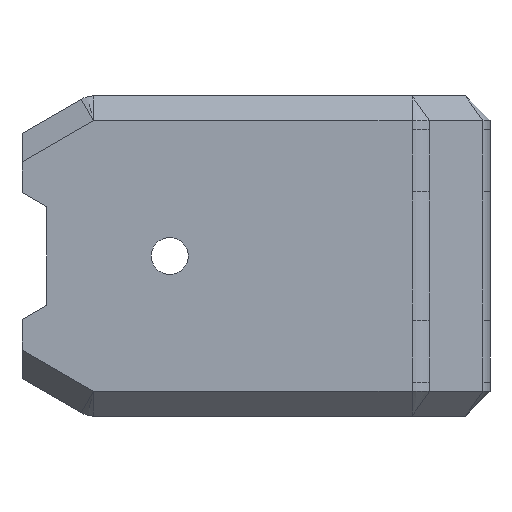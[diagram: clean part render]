
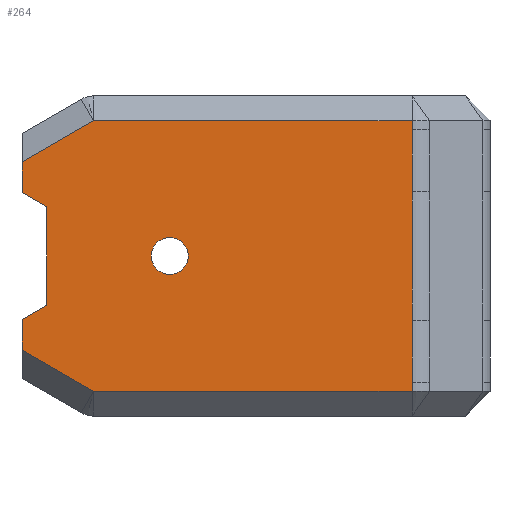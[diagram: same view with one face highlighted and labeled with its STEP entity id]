
A CAD part, front view. The second image highlights one B-rep face of the part: STEP entity #264.
In plain terms, the highlighted planar face has unit normal (0, -1, 0).
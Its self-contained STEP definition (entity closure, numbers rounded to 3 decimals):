
#100=VECTOR('Line Direction',#99,1.) ;
#109=VECTOR('Line Direction',#108,1.) ;
#116=VECTOR('Line Direction',#115,1.) ;
#123=VECTOR('Line Direction',#122,1.) ;
#130=VECTOR('Line Direction',#129,1.) ;
#137=VECTOR('Line Direction',#136,1.) ;
#144=VECTOR('Line Direction',#143,1.) ;
#151=VECTOR('Line Direction',#150,1.) ;
#158=VECTOR('Line Direction',#157,1.) ;
#165=VECTOR('Line Direction',#164,1.) ;
#172=VECTOR('Line Direction',#171,1.) ;
#179=VECTOR('Line Direction',#178,1.) ;
#186=VECTOR('Line Direction',#185,1.) ;
#193=VECTOR('Line Direction',#192,1.) ;
#200=VECTOR('Line Direction',#199,1.) ;
#207=VECTOR('Line Direction',#206,1.) ;
#214=VECTOR('Line Direction',#213,1.) ;
#221=VECTOR('Line Direction',#220,1.) ;
#228=VECTOR('Line Direction',#227,1.) ;
#235=VECTOR('Line Direction',#234,1.) ;
#58=DIRECTION('Axis2P3D Direction',(-0.,-1.,0.)) ;
#82=DIRECTION('Axis2P3D Direction',(-0.,-1.,0.)) ;
#94=DIRECTION('Axis2P3D Direction',(0.,1.,-0.)) ;
#95=DIRECTION('Axis2P3D XDirection',(-0.,-0.,-1.)) ;
#99=DIRECTION('Vector Direction',(0.,0.,-1.)) ;
#108=DIRECTION('Vector Direction',(0.,0.,-1.)) ;
#115=DIRECTION('Vector Direction',(0.,0.,-1.)) ;
#122=DIRECTION('Vector Direction',(0.,0.,-1.)) ;
#129=DIRECTION('Vector Direction',(0.,0.,-1.)) ;
#136=DIRECTION('Vector Direction',(0.,0.,-1.)) ;
#143=DIRECTION('Vector Direction',(1.,0.,0.)) ;
#150=DIRECTION('Vector Direction',(0.866,0.,0.5)) ;
#157=DIRECTION('Vector Direction',(0.,0.,1.)) ;
#164=DIRECTION('Vector Direction',(-0.866,0.,0.5)) ;
#171=DIRECTION('Vector Direction',(0.,0.,-1.)) ;
#178=DIRECTION('Vector Direction',(-0.866,0.,-0.5)) ;
#185=DIRECTION('Vector Direction',(0.,0.,1.)) ;
#192=DIRECTION('Vector Direction',(0.866,0.,-0.5)) ;
#199=DIRECTION('Vector Direction',(1.,0.,0.)) ;
#206=DIRECTION('Vector Direction',(0.,0.,-1.)) ;
#213=DIRECTION('Vector Direction',(0.,0.,-1.)) ;
#220=DIRECTION('Vector Direction',(0.,0.,-1.)) ;
#227=DIRECTION('Vector Direction',(0.,0.,-1.)) ;
#234=DIRECTION('Vector Direction',(0.,0.,-1.)) ;
#54=CARTESIAN_POINT('Vertex',(134.5,-128.,-126.)) ;
#57=CARTESIAN_POINT('Axis2P3D Location',(136.,-128.,-126.)) ;
#61=CARTESIAN_POINT('Vertex',(137.5,-128.,-126.)) ;
#81=CARTESIAN_POINT('Axis2P3D Location',(136.,-128.,-126.)) ;
#93=CARTESIAN_POINT('Axis2P3D Location',(0.,-128.,-134.2)) ;
#98=CARTESIAN_POINT('Line Origine',(155.672,-128.,-129.434)) ;
#102=CARTESIAN_POINT('Vertex',(155.672,-128.,-129.25)) ;
#104=CARTESIAN_POINT('Vertex',(155.672,-128.,-129.619)) ;
#107=CARTESIAN_POINT('Line Origine',(155.672,-128.,-125.5)) ;
#111=CARTESIAN_POINT('Vertex',(155.672,-128.,-121.75)) ;
#114=CARTESIAN_POINT('Line Origine',(155.672,-128.,-121.6)) ;
#118=CARTESIAN_POINT('Vertex',(155.672,-128.,-121.45)) ;
#121=CARTESIAN_POINT('Line Origine',(155.672,-128.,-121.1)) ;
#125=CARTESIAN_POINT('Vertex',(155.672,-128.,-120.75)) ;
#128=CARTESIAN_POINT('Line Origine',(155.672,-128.,-118.25)) ;
#132=CARTESIAN_POINT('Vertex',(155.672,-128.,-115.75)) ;
#135=CARTESIAN_POINT('Line Origine',(155.672,-128.,-115.375)) ;
#139=CARTESIAN_POINT('Vertex',(155.672,-128.,-115.)) ;
#142=CARTESIAN_POINT('Line Origine',(142.738,-128.,-115.)) ;
#146=CARTESIAN_POINT('Vertex',(129.804,-128.,-115.)) ;
#149=CARTESIAN_POINT('Line Origine',(126.902,-128.,-116.675)) ;
#153=CARTESIAN_POINT('Vertex',(124.,-128.,-118.351)) ;
#156=CARTESIAN_POINT('Line Origine',(124.,-128.,-119.598)) ;
#160=CARTESIAN_POINT('Vertex',(124.,-128.,-120.845)) ;
#163=CARTESIAN_POINT('Line Origine',(125.,-128.,-121.423)) ;
#167=CARTESIAN_POINT('Vertex',(126.,-128.,-122.)) ;
#170=CARTESIAN_POINT('Line Origine',(126.,-128.,-126.)) ;
#174=CARTESIAN_POINT('Vertex',(126.,-128.,-130.)) ;
#177=CARTESIAN_POINT('Line Origine',(125.,-128.,-130.577)) ;
#181=CARTESIAN_POINT('Vertex',(124.,-128.,-131.155)) ;
#184=CARTESIAN_POINT('Line Origine',(124.,-128.,-132.402)) ;
#188=CARTESIAN_POINT('Vertex',(124.,-128.,-133.649)) ;
#191=CARTESIAN_POINT('Line Origine',(126.902,-128.,-135.325)) ;
#195=CARTESIAN_POINT('Vertex',(129.804,-128.,-137.)) ;
#198=CARTESIAN_POINT('Line Origine',(142.738,-128.,-137.)) ;
#202=CARTESIAN_POINT('Vertex',(155.672,-128.,-137.)) ;
#205=CARTESIAN_POINT('Line Origine',(155.672,-128.,-136.875)) ;
#209=CARTESIAN_POINT('Vertex',(155.672,-128.,-136.75)) ;
#212=CARTESIAN_POINT('Line Origine',(155.672,-128.,-136.5)) ;
#216=CARTESIAN_POINT('Vertex',(155.672,-128.,-136.25)) ;
#219=CARTESIAN_POINT('Line Origine',(155.672,-128.,-133.75)) ;
#223=CARTESIAN_POINT('Vertex',(155.672,-128.,-131.25)) ;
#226=CARTESIAN_POINT('Line Origine',(155.672,-128.,-130.575)) ;
#230=CARTESIAN_POINT('Vertex',(155.672,-128.,-129.9)) ;
#233=CARTESIAN_POINT('Line Origine',(155.672,-128.,-129.759)) ;
#59=AXIS2_PLACEMENT_3D('Circle Axis2P3D',#57,#58,$) ;
#83=AXIS2_PLACEMENT_3D('Circle Axis2P3D',#81,#82,$) ;
#96=AXIS2_PLACEMENT_3D('Plane Axis2P3D',#93,#94,#95) ;
#263=FACE_BOUND('',#260,.T.) ;
#63=EDGE_CURVE('',#55,#62,#60,.T.) ;
#85=EDGE_CURVE('',#62,#55,#84,.T.) ;
#106=EDGE_CURVE('',#103,#105,#101,.T.) ;
#113=EDGE_CURVE('',#112,#103,#110,.T.) ;
#120=EDGE_CURVE('',#119,#112,#117,.T.) ;
#127=EDGE_CURVE('',#126,#119,#124,.T.) ;
#134=EDGE_CURVE('',#133,#126,#131,.T.) ;
#141=EDGE_CURVE('',#140,#133,#138,.T.) ;
#148=EDGE_CURVE('',#147,#140,#145,.T.) ;
#155=EDGE_CURVE('',#154,#147,#152,.T.) ;
#162=EDGE_CURVE('',#154,#161,#159,.F.) ;
#169=EDGE_CURVE('',#168,#161,#166,.T.) ;
#176=EDGE_CURVE('',#175,#168,#173,.F.) ;
#183=EDGE_CURVE('',#175,#182,#180,.T.) ;
#190=EDGE_CURVE('',#189,#182,#187,.T.) ;
#197=EDGE_CURVE('',#189,#196,#194,.T.) ;
#204=EDGE_CURVE('',#196,#203,#201,.T.) ;
#211=EDGE_CURVE('',#210,#203,#208,.T.) ;
#218=EDGE_CURVE('',#217,#210,#215,.T.) ;
#225=EDGE_CURVE('',#224,#217,#222,.T.) ;
#232=EDGE_CURVE('',#231,#224,#229,.T.) ;
#237=EDGE_CURVE('',#105,#231,#236,.T.) ;
#97=PLANE('Plane',#96) ;
#239=ORIENTED_EDGE('',*,*,#106,.F.) ;
#240=ORIENTED_EDGE('',*,*,#113,.F.) ;
#241=ORIENTED_EDGE('',*,*,#120,.F.) ;
#242=ORIENTED_EDGE('',*,*,#127,.F.) ;
#243=ORIENTED_EDGE('',*,*,#134,.F.) ;
#244=ORIENTED_EDGE('',*,*,#141,.F.) ;
#245=ORIENTED_EDGE('',*,*,#148,.F.) ;
#246=ORIENTED_EDGE('',*,*,#155,.F.) ;
#247=ORIENTED_EDGE('',*,*,#162,.T.) ;
#248=ORIENTED_EDGE('',*,*,#169,.F.) ;
#249=ORIENTED_EDGE('',*,*,#176,.F.) ;
#250=ORIENTED_EDGE('',*,*,#183,.T.) ;
#251=ORIENTED_EDGE('',*,*,#190,.F.) ;
#252=ORIENTED_EDGE('',*,*,#197,.T.) ;
#253=ORIENTED_EDGE('',*,*,#204,.T.) ;
#254=ORIENTED_EDGE('',*,*,#211,.F.) ;
#255=ORIENTED_EDGE('',*,*,#218,.F.) ;
#256=ORIENTED_EDGE('',*,*,#225,.F.) ;
#257=ORIENTED_EDGE('',*,*,#232,.F.) ;
#258=ORIENTED_EDGE('',*,*,#237,.F.) ;
#261=ORIENTED_EDGE('',*,*,#63,.F.) ;
#262=ORIENTED_EDGE('',*,*,#85,.F.) ;
#101=LINE('Line',#98,#100) ;
#110=LINE('Line',#107,#109) ;
#117=LINE('Line',#114,#116) ;
#124=LINE('Line',#121,#123) ;
#131=LINE('Line',#128,#130) ;
#138=LINE('Line',#135,#137) ;
#145=LINE('Line',#142,#144) ;
#152=LINE('Line',#149,#151) ;
#159=LINE('Line',#156,#158) ;
#166=LINE('Line',#163,#165) ;
#173=LINE('Line',#170,#172) ;
#180=LINE('Line',#177,#179) ;
#187=LINE('Line',#184,#186) ;
#194=LINE('Line',#191,#193) ;
#201=LINE('Line',#198,#200) ;
#208=LINE('Line',#205,#207) ;
#215=LINE('Line',#212,#214) ;
#222=LINE('Line',#219,#221) ;
#229=LINE('Line',#226,#228) ;
#236=LINE('Line',#233,#235) ;
#264=ADVANCED_FACE('\X2\96F64EF651E04F554F53\X0\',(#259,#263),#97,.F.) ;
#60=CIRCLE('generated circle',#59,1.5) ;
#84=CIRCLE('generated circle',#83,1.5) ;
#55=VERTEX_POINT('',#54) ;
#62=VERTEX_POINT('',#61) ;
#103=VERTEX_POINT('',#102) ;
#105=VERTEX_POINT('',#104) ;
#112=VERTEX_POINT('',#111) ;
#119=VERTEX_POINT('',#118) ;
#126=VERTEX_POINT('',#125) ;
#133=VERTEX_POINT('',#132) ;
#140=VERTEX_POINT('',#139) ;
#147=VERTEX_POINT('',#146) ;
#154=VERTEX_POINT('',#153) ;
#161=VERTEX_POINT('',#160) ;
#168=VERTEX_POINT('',#167) ;
#175=VERTEX_POINT('',#174) ;
#182=VERTEX_POINT('',#181) ;
#189=VERTEX_POINT('',#188) ;
#196=VERTEX_POINT('',#195) ;
#203=VERTEX_POINT('',#202) ;
#210=VERTEX_POINT('',#209) ;
#217=VERTEX_POINT('',#216) ;
#224=VERTEX_POINT('',#223) ;
#231=VERTEX_POINT('',#230) ;
#238=EDGE_LOOP('',(#239,#240,#241,#242,#243,#244,#245,#246,#247,#248,#249,#250,#251,#252,#253,#254,#255,#256,#257,#258)) ;
#260=EDGE_LOOP('',(#261,#262)) ;
#259=FACE_OUTER_BOUND('',#238,.T.) ;
